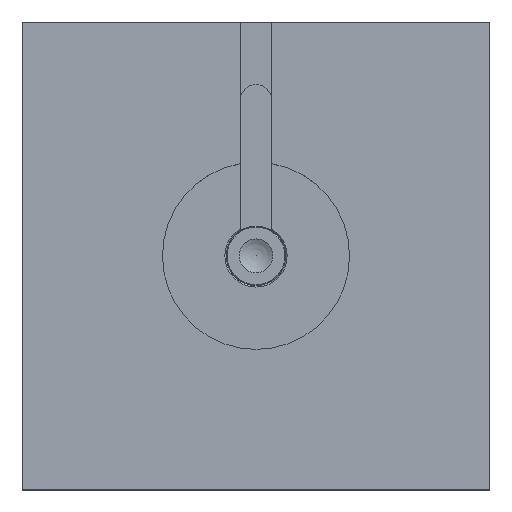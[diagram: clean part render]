
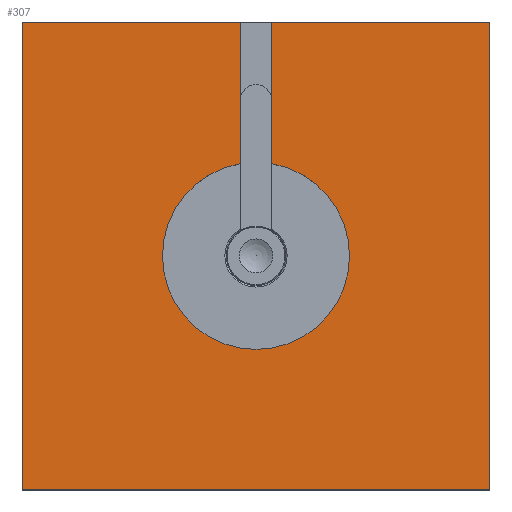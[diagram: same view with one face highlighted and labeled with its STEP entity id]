
A CAD part, top view. The second image highlights one B-rep face of the part: STEP entity #307.
In plain terms, the highlighted planar face has unit normal (0, 0, 1).
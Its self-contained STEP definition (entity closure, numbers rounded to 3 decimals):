
#307 = ADVANCED_FACE( '', ( #651 ), #652, .T. );
#651 = FACE_OUTER_BOUND( '', #1115, .T. );
#652 = PLANE( '', #1116 );
#1115 = EDGE_LOOP( '', ( #1768, #1769, #1770, #1771, #1772, #1773, #1774, #1775 ) );
#1116 = AXIS2_PLACEMENT_3D( '', #1776, #1777, #1778 );
#1768 = ORIENTED_EDGE( '', *, *, #2015, .T. );
#1769 = ORIENTED_EDGE( '', *, *, #2097, .T. );
#1770 = ORIENTED_EDGE( '', *, *, #2002, .T. );
#1771 = ORIENTED_EDGE( '', *, *, #2111, .T. );
#1772 = ORIENTED_EDGE( '', *, *, #2200, .T. );
#1773 = ORIENTED_EDGE( '', *, *, #2205, .T. );
#1774 = ORIENTED_EDGE( '', *, *, #2006, .T. );
#1775 = ORIENTED_EDGE( '', *, *, #2047, .T. );
#1776 = CARTESIAN_POINT( '', ( -150., -150., 0. ) );
#1777 = DIRECTION( '', ( 0., 0., 1. ) );
#1778 = DIRECTION( '', ( 0., -1., 0. ) );
#2002 = EDGE_CURVE( '', #2295, #2296, #2297, .T. );
#2006 = EDGE_CURVE( '', #2304, #2302, #2305, .T. );
#2015 = EDGE_CURVE( '', #2318, #2319, #2320, .T. );
#2047 = EDGE_CURVE( '', #2302, #2318, #2373, .T. );
#2097 = EDGE_CURVE( '', #2319, #2295, #2456, .T. );
#2111 = EDGE_CURVE( '', #2296, #2476, #2477, .T. );
#2200 = EDGE_CURVE( '', #2476, #2608, #2609, .T. );
#2205 = EDGE_CURVE( '', #2608, #2304, #2614, .T. );
#2295 = VERTEX_POINT( '', #2726 );
#2296 = VERTEX_POINT( '', #2727 );
#2297 = LINE( '', #2728, #2729 );
#2302 = VERTEX_POINT( '', #2736 );
#2304 = VERTEX_POINT( '', #2739 );
#2305 = LINE( '', #2740, #2741 );
#2318 = VERTEX_POINT( '', #2758 );
#2319 = VERTEX_POINT( '', #2759 );
#2320 = CIRCLE( '', #2760, 60. );
#2373 = LINE( '', #2879, #2880 );
#2456 = LINE( '', #2982, #2983 );
#2476 = VERTEX_POINT( '', #3011 );
#2477 = LINE( '', #3012, #3013 );
#2608 = VERTEX_POINT( '', #3175 );
#2609 = LINE( '', #3176, #3177 );
#2614 = LINE( '', #3184, #3185 );
#2726 = CARTESIAN_POINT( '', ( -10., 150., 0. ) );
#2727 = CARTESIAN_POINT( '', ( -150., 150., 0. ) );
#2728 = CARTESIAN_POINT( '', ( 150., 150., 0. ) );
#2729 = VECTOR( '', #3290, 1000. );
#2736 = CARTESIAN_POINT( '', ( 10., 150., 0. ) );
#2739 = CARTESIAN_POINT( '', ( 150., 150., 0. ) );
#2740 = CARTESIAN_POINT( '', ( 150., 150., 0. ) );
#2741 = VECTOR( '', #3294, 1000. );
#2758 = CARTESIAN_POINT( '', ( 10., 59.161, 0. ) );
#2759 = CARTESIAN_POINT( '', ( -10., 59.161, 0. ) );
#2760 = AXIS2_PLACEMENT_3D( '', #3305, #3306, #3307 );
#2879 = CARTESIAN_POINT( '', ( 10., 150., 0. ) );
#2880 = VECTOR( '', #3348, 1000. );
#2982 = CARTESIAN_POINT( '', ( -10., 0., 0. ) );
#2983 = VECTOR( '', #3422, 1000. );
#3011 = CARTESIAN_POINT( '', ( -150., -150., 0. ) );
#3012 = CARTESIAN_POINT( '', ( -150., 150., 0. ) );
#3013 = VECTOR( '', #3440, 1000. );
#3175 = CARTESIAN_POINT( '', ( 150., -150., 0. ) );
#3176 = CARTESIAN_POINT( '', ( -150., -150., 0. ) );
#3177 = VECTOR( '', #3574, 1000. );
#3184 = CARTESIAN_POINT( '', ( 150., -150., 0. ) );
#3185 = VECTOR( '', #3577, 1000. );
#3290 = DIRECTION( '', ( -1., 0., 0. ) );
#3294 = DIRECTION( '', ( -1., 0., 0. ) );
#3305 = CARTESIAN_POINT( '', ( 0., 0., 0. ) );
#3306 = DIRECTION( '', ( 0., 0., -1. ) );
#3307 = DIRECTION( '', ( -1., 0., 0. ) );
#3348 = DIRECTION( '', ( 0., -1., 0. ) );
#3422 = DIRECTION( '', ( 0., 1., 0. ) );
#3440 = DIRECTION( '', ( 0., -1., 0. ) );
#3574 = DIRECTION( '', ( 1., 0., 0. ) );
#3577 = DIRECTION( '', ( 0., 1., 0. ) );
